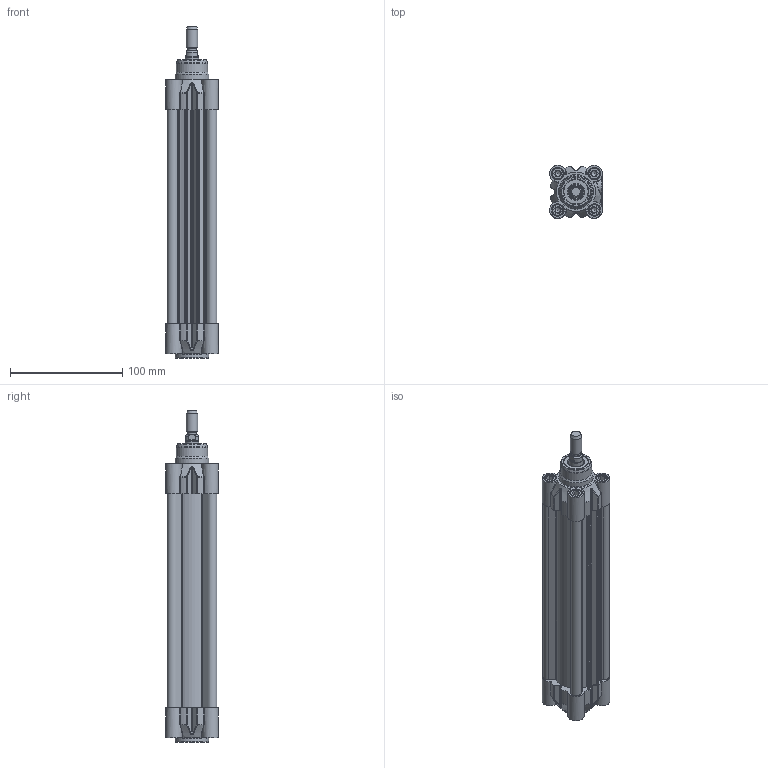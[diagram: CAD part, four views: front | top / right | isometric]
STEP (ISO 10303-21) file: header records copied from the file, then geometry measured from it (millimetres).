
FILE_DESCRIPTION(/* description */ ('CILINDRO D.E. MAGNETICO AMMORTIZZATO ISO 15552'),/* implementation_level */ '2;1');
FILE_NAME(/* name */ 'T:\Archivio Inventor\- 00 NUOVI STP PER SITO CON STELO CHE SI MUOVE\SERIE H - U\SERIE HDM\HDM032-TUBO NUOVO\HDM032.150.GS.M.stp',/* time_stamp */ '2018-07-25T10:57:52+02:00',/* author */ ('carlo.corazza'),/* organization */ (''),/* preprocessor_version */ 'ST-DEVELOPER v16.5',/* originating_system */ 'Autodesk Inventor 2017',/* authorisation */ '');
FILE_SCHEMA (('AUTOMOTIVE_DESIGN { 1 0 10303 214 3 1 1 }'));
Length unit declared in the file: millimetre
Products named in the file (5): HDM032.150.GS.M; TP; STELO-150; TA; CORPO-150
Assembly tree (4 placements, depth 2):
  HDM032.150.GS.M
    TP
    STELO-150
    TA
    CORPO-150
Bounding box: 47 x 47 x 296 mm (x, y, z)
Volume: 216954.9 mm3; surface area: 142764 mm2
Topology: 4 solids, 18 shells, 969 faces, 2356 edges, 1494 vertices
Faces by surface type: plane 330, cylinder 260, bspline 190, cone 86, torus 83, sphere 20
Full cylindrical faces by diameter (mm): 2 x2, 2.1 x2, 4 x2, 4.5 x2, 4.917 x8, 6 x8, 6.2 x8, 6.3 x4, 7 x2, 7.8 x4, 7.9 x3, 8 x4, 8.566 x2, 10 x9, 10.3 x8, 11.6 x1, 12 x1, 12.8 x1, 12.847 x1, 16 x1, 17 x2, 22 x3, 28 x1, 30 x2, 32 x1
Entity records: 31186 total; most frequent: CARTESIAN_POINT 9171, ORIENTED_EDGE 4162, DIRECTION 4048, EDGE_CURVE 2081, AXIS2_PLACEMENT_3D 1569, VERTEX_POINT 1436, EDGE_LOOP 1302, FACE_OUTER_BOUND 969
